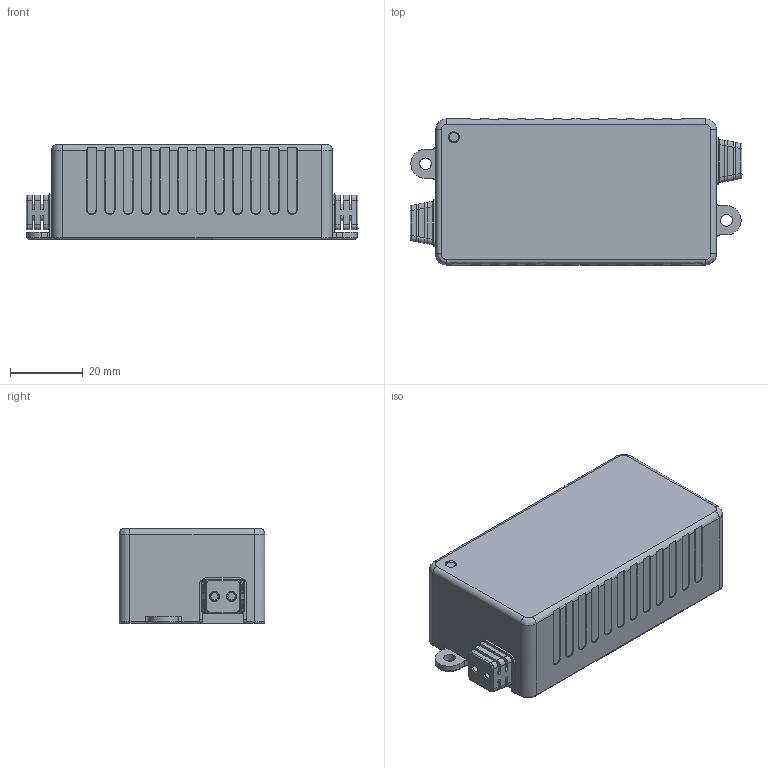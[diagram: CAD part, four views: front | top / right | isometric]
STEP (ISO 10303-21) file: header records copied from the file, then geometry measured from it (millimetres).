
FILE_DESCRIPTION(/* description */ (''),/* implementation_level */ '2;1');
FILE_NAME(/* name */ 'SH-16-~2',/* time_stamp */ '2023-07-05T11:04:37+08:00',/* author */ (''),/* organization */ (''),/* preprocessor_version */ 'ST-DEVELOPER v16.5',/* originating_system */ '',/* authorisation */ '');
FILE_SCHEMA (('AUTOMOTIVE_DESIGN'));
Length unit declared in the file: millimetre
Products named in the file (1): Document
Bounding box: 91 x 40 x 26 mm (x, y, z)
Volume: 80676.7 mm3; surface area: 13730.9 mm2
Topology: 3 solids, 3 shells, 317 faces, 858 edges, 548 vertices
Faces by surface type: bspline 220, plane 97
Entity records: 12626 total; most frequent: CARTESIAN_POINT 7503, ORIENTED_EDGE 1716, EDGE_CURVE 858, B_SPLINE_CURVE_WITH_KNOTS 630, VERTEX_POINT 548, EDGE_LOOP 330, ADVANCED_FACE 317, FACE_OUTER_BOUND 317
